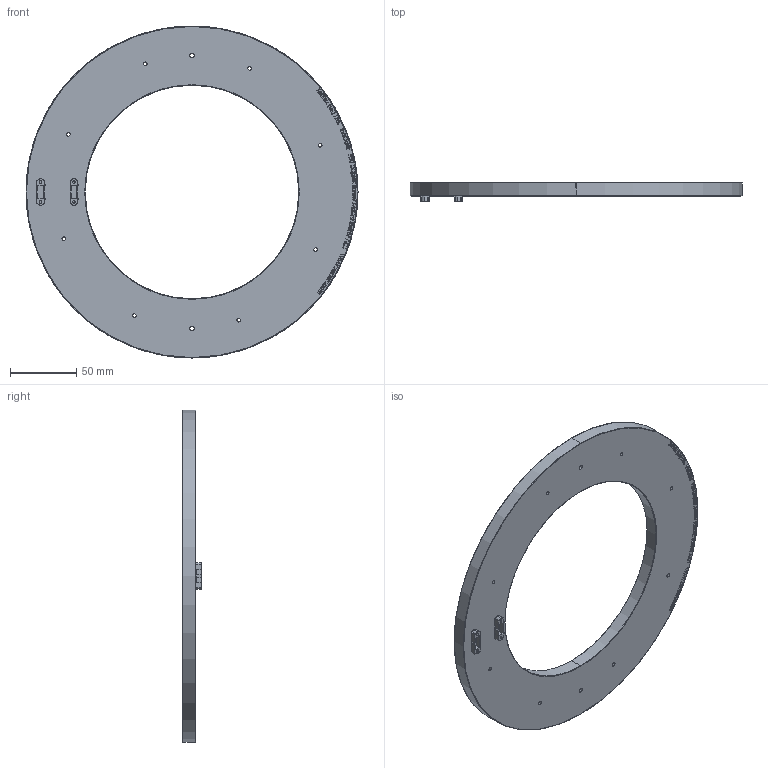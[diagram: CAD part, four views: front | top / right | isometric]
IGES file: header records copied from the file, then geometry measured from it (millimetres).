
Start section: SolidWorks IGES file using analytic representation for surfaces
Global section: file name: C:\Zettlex Data\Mechanical Drawings\1011\250 Duplex Screw Mount Stator AC1 Rev 1-2.IGS; native system: SolidWorks 2015; preprocessor: SolidWorks 2015; author: Nigel; date: 150914.153306; units: millimetre
Bounding box: 250 x 13.8 x 250 mm (x, y, z)
Surface area: 71913.2 mm2 (no closed solid volume)
Topology: 0 solids, 0 shells, 922 faces, 10792 edges, 10792 vertices
Faces by surface type: bspline 861, revolution 61
